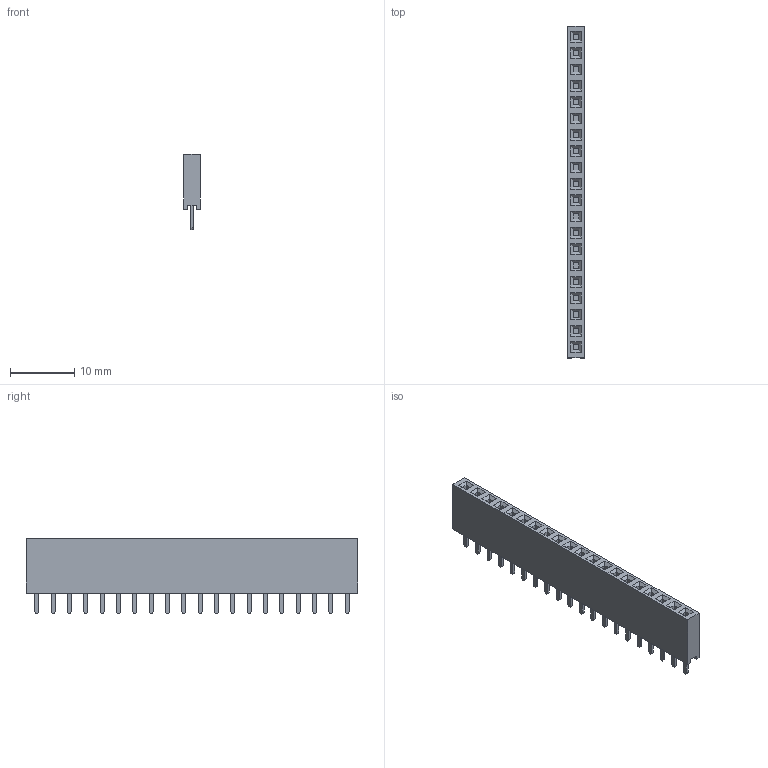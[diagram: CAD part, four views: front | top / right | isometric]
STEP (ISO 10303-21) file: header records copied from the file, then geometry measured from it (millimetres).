
FILE_DESCRIPTION(('FreeCAD Model'),'2;1');
FILE_NAME('Open CASCADE Shape Model','2025-05-08T09:28:28',( 'Peter S. Hollander'),('https://gitlab.com/recursivenomad/'), 'Open CASCADE STEP processor 7.6','FreeCAD','Unknown');
FILE_SCHEMA(('AUTOMOTIVE_DESIGN { 1 0 10303 214 1 1 1 1 }'));
Length unit declared in the file: millimetre
Products named in the file (2): RaspberryPi_Pico_PinSockets_H8.50mm_KiCad; PinSocket_1x20_KiCad
Bounding box: 2.54 x 51.6 x 11.68 mm (x, y, z)
Volume: 992.5 mm3; surface area: 1821.4 mm2
Topology: 1 solids, 1 shells, 330 faces, 784 edges, 496 vertices
Faces by surface type: plane 330
Entity records: 6139 total; most frequent: ORIENTED_EDGE 1238, CARTESIAN_POINT 840, EDGE_CURVE 784, LINE 784, VERTEX_POINT 496, FACE_BOUND 370, EDGE_LOOP 370, AXIS2_PLACEMENT_3D 332
